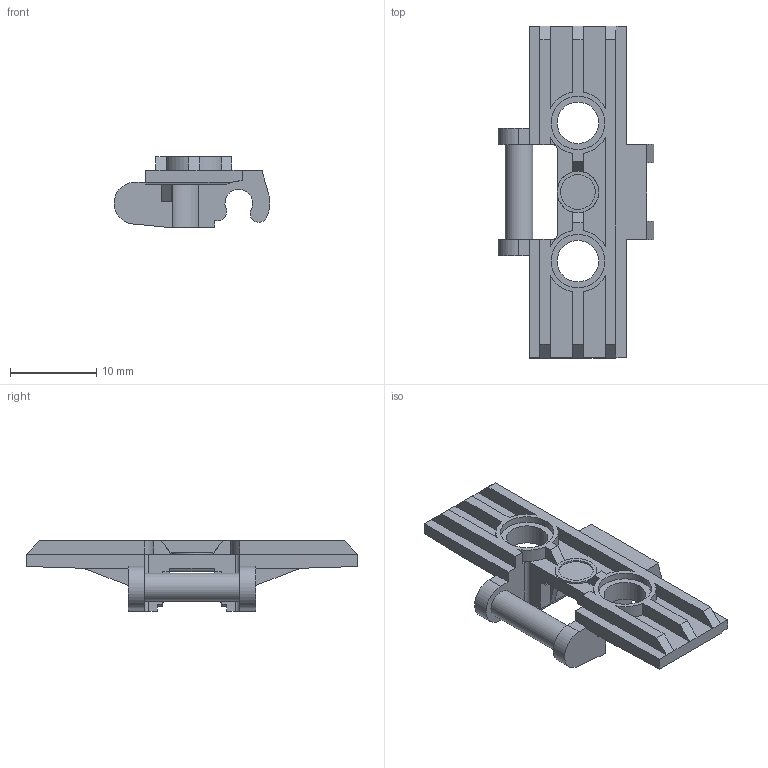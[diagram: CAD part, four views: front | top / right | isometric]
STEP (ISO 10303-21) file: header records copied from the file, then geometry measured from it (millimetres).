
FILE_DESCRIPTION(/* description */ ('Unknown'),/* implementation_level */ '2;1');
FILE_NAME(/* name */ 'Gray_4566742_AVV',/* time_stamp */ '2025-07-22T00:00:12+02:00',/* author */ ('Unknown'),/* organization */ ('Unknown'),/* preprocessor_version */ 'ST-DEVELOPER v19.4',/* originating_system */ 'Solid Edge',/* authorisation */ 'Unknown');
FILE_SCHEMA (('AUTOMOTIVE_DESIGN {1 0 10303 214 3 1 1}'));
Length unit declared in the file: millimetre
Products named in the file (1): Gray_4566742_AVV
Bounding box: 18.02 x 38.4 x 8.2 mm (x, y, z)
Volume: 1157.7 mm3; surface area: 1842.2 mm2
Topology: 1 solids, 1 shells, 136 faces, 369 edges, 238 vertices
Faces by surface type: plane 101, cylinder 35
Full cylindrical faces by diameter (mm): 3.2 x1, 4 x1, 4.8 x3, 6.2 x2
Entity records: 4216 total; most frequent: CARTESIAN_POINT 731, ORIENTED_EDGE 718, DIRECTION 708, EDGE_CURVE 359, LINE 284, VECTOR 284, VERTEX_POINT 235, AXIS2_PLACEMENT_3D 212
